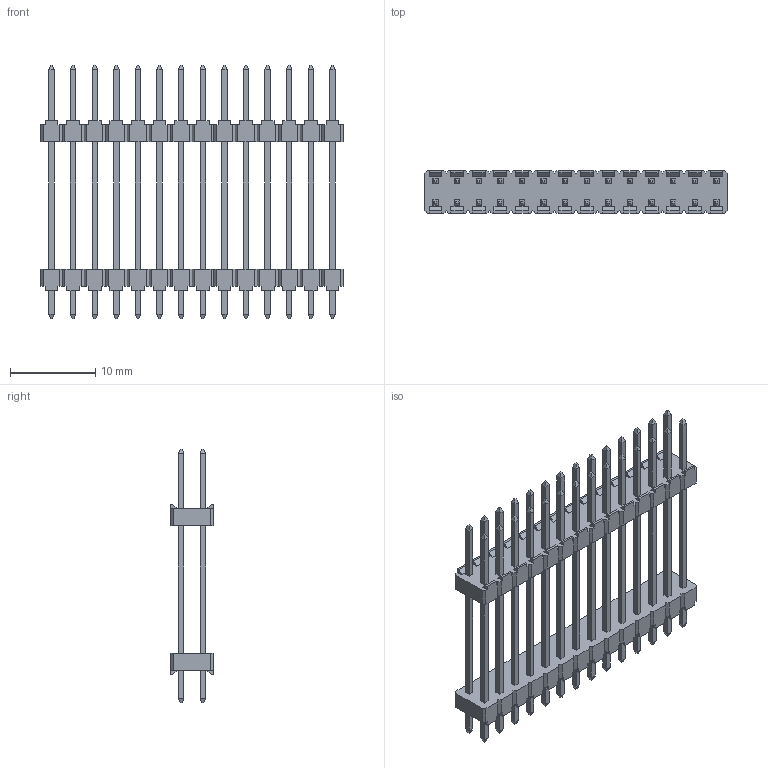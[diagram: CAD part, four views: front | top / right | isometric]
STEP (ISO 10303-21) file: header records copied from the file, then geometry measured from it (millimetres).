
FILE_DESCRIPTION(/* description */ (''),/* implementation_level */ '2;1');
FILE_NAME(/* name */ '961428-8041304-XX',/* time_stamp */ '2007-06-14T18:09:22+02:00',/* author */ (''),/* organization */ (''),/* preprocessor_version */ 'ST-DEVELOPER v9',/* originating_system */ 'UGS - NX 3.0',/* authorisation */ '');
FILE_SCHEMA (('AUTOMOTIVE_DESIGN { 1 0 10303 214 1 1 1 1 }'));
Length unit declared in the file: millimetre
Products named in the file (1): 961428-8041304-XX
Bounding box: 35.56 x 5 x 29.8 mm (x, y, z)
Volume: 1007.3 mm3; surface area: 2908.9 mm2
Topology: 1 solids, 1 shells, 1076 faces, 2824 edges, 1808 vertices
Faces by surface type: plane 1076
Entity records: 32248 total; most frequent: CARTESIAN_POINT 5709, ORIENTED_EDGE 5648, DIRECTION 4978, EDGE_CURVE 2824, LINE 2824, VECTOR 2824, VERTEX_POINT 1808, EDGE_LOOP 1188
